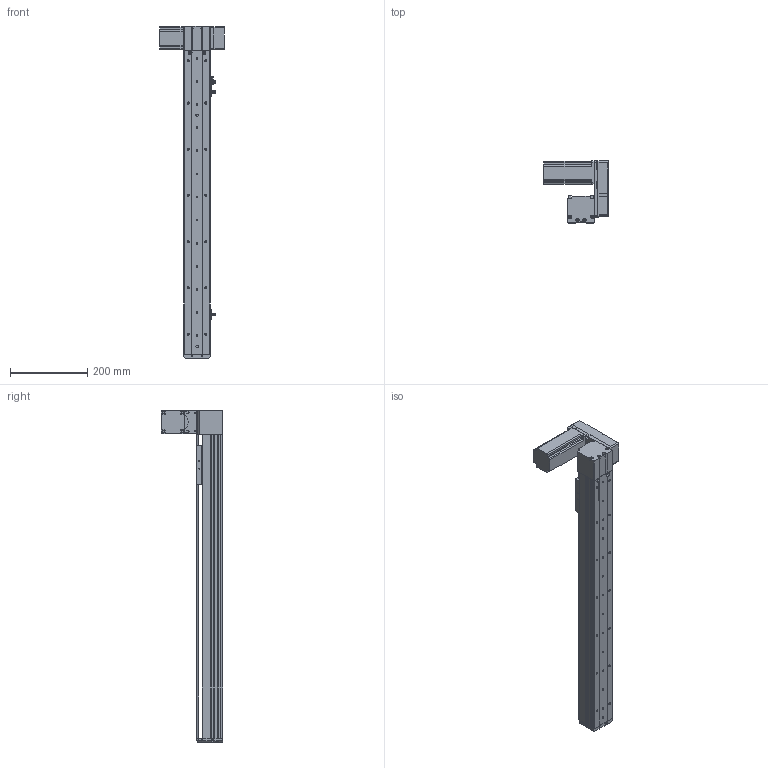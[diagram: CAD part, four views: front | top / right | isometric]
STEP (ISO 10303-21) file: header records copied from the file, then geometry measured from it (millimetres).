
FILE_DESCRIPTION (( 'STEP AP214' ), '1' );
FILE_NAME ('KSD68BS-S600-MLU-CM.STEP', '2019-08-22T02:32:23', ( '微软用户' ), ( '微软中国' ), 'SwSTEP 2.0', 'SolidWorks 2014', '' );
FILE_SCHEMA (( 'AUTOMOTIVE_DESIGN' ));
Length unit declared in the file: millimetre
Products named in the file (11): U倰嫖萇EEㄜSX672; 台达ECMA－C20604AS伺服电机（400W); KSD68BS 600俴最菁啣圉猾敕; KSD68BS-S600-MLU-CM; 悵誘欶奻狟殏; 68宽马达安装板连板上折同步带; 68宽单导轨半封闭同步带主动轮座左; 68单导轨同步带半封闭端板; KSD68BS 600俴最裔啣圉猾敕; 覜茼え68遵圉猾敕; KSD68BS半封闭同步带传动导轨座
Assembly tree (12 placements, depth 2):
  KSD68BS-S600-MLU-CM
    KSD68BS 600俴最菁啣圉猾敕
    台达ECMA－C20604AS伺服电机（400W)
    U倰嫖萇EEㄜSX672  x3
    KSD68BS半封闭同步带传动导轨座
    覜茼え68遵圉猾敕
    KSD68BS 600俴最裔啣圉猾敕
    68单导轨同步带半封闭端板
    68宽单导轨半封闭同步带主动轮座左
    68宽马达安装板连板上折同步带
    悵誘欶奻狟殏
Bounding box: 167.2 x 159.5 x 862 mm (x, y, z)
Volume: 1866050.7 mm3; surface area: 621205.9 mm2
Topology: 13 solids, 13 shells, 1304 faces, 3714 edges, 2412 vertices
Faces by surface type: cylinder 636, plane 585, cone 83
Entity records: 46718 total; most frequent: CARTESIAN_POINT 8670, ORIENTED_EDGE 6180, DIRECTION 6170, EDGE_CURVE 3090, AXIS2_PLACEMENT_3D 2208, VERTEX_POINT 2036, LINE 1754, VECTOR 1754
